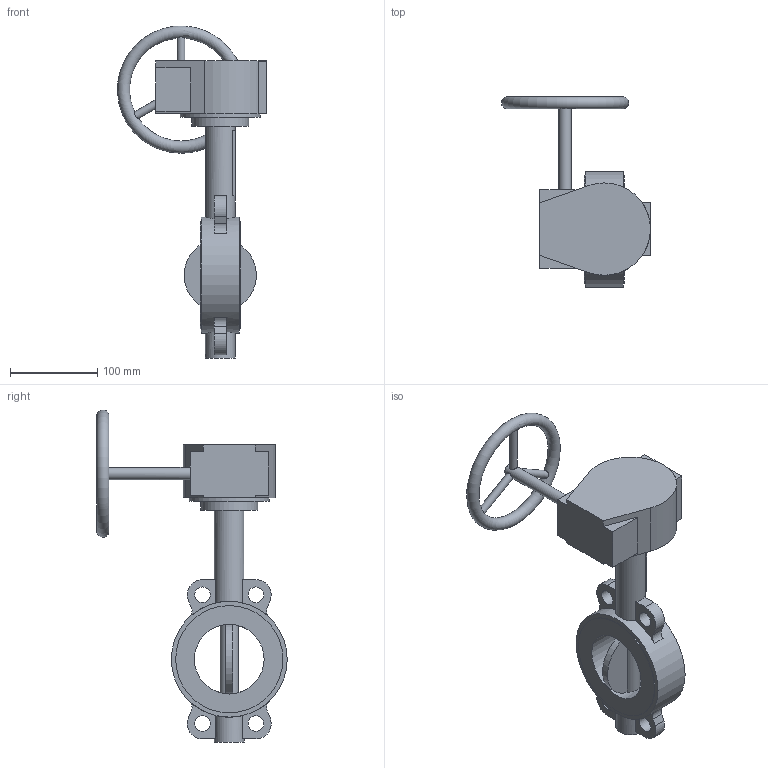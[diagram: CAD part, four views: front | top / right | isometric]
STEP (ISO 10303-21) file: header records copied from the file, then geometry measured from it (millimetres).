
FILE_DESCRIPTION(('STEP AP203'), '1');
FILE_NAME('青蜮铕 017WDN80 疱潴牝铕', '', ('UNSPECIFIED'), ('UNSPECIFIED'), 'ASCON STEP Converter 1.6', 'ASCON Math Kernel', '');
FILE_SCHEMA(('CONFIG_CONTROL_DESIGN'));
Length unit declared in the file: millimetre
Bounding box: 170.85 x 218.5 x 380.97 mm (x, y, z)
Volume: 807275.3 mm3; surface area: 174973.4 mm2
Topology: 1 solids, 2 shells, 682 faces, 1987 edges, 1279 vertices
Faces by surface type: cylinder 484, plane 197, torus 1
Full cylindrical faces by diameter (mm): 6.7 x4, 8 x4, 9 x3, 12.6 x1, 14 x1, 18 x4, 34 x2, 35 x1, 65 x1, 80 x1, 92 x1, 123 x2, 133 x1
Entity records: 29931 total; most frequent: CARTESIAN_POINT 5566, DIRECTION 4317, ORIENTED_EDGE 3851, EDGE_CURVE 1957, AXIS2_PLACEMENT_3D 1702, VERTEX_POINT 1277, CIRCLE 1020, LINE 913
